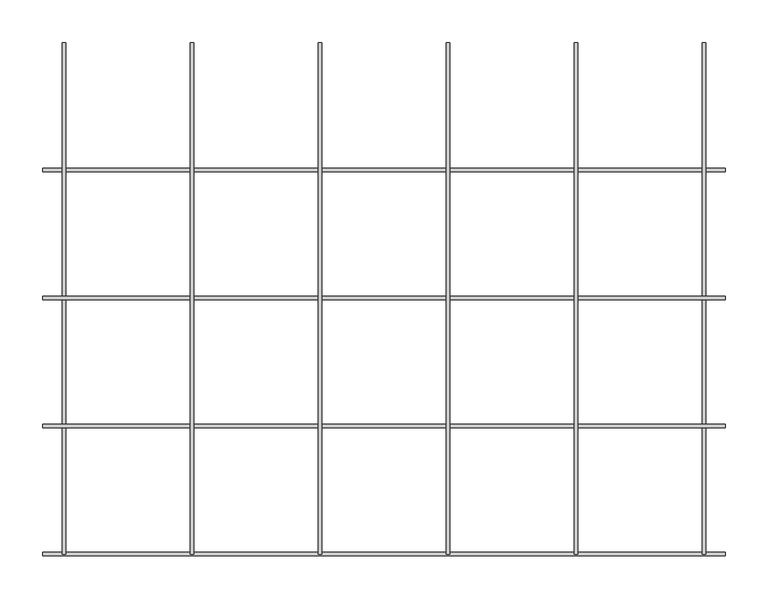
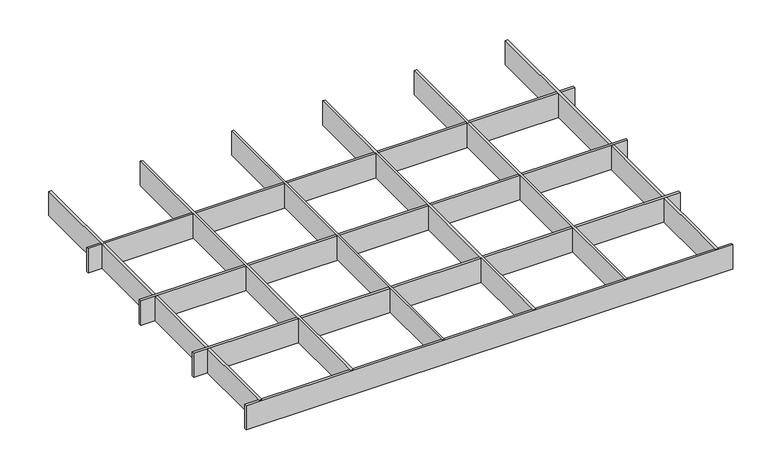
"""IFC4 building model written with IfcOpenShell, lengths in millimetres: proxy geometry, durlum_GEO_panel : durlum_GEO_4_length_cut."""

import ifcopenshell
import ifcopenshell.guid

model = None  # the IFC model being written
_history = None  # IfcOwnerHistory: only IFC2X3 demands one
_inside = {}  # id of a spatial element -> (the spatial element, [elements in it])
_under = {}  # id of a project, library or spatial element -> (it, [spatial elements below it])
_declared = {}  # id of a project -> (the project, [libraries it declares])
_typed = {}  # id of a type object -> (the type object, [elements of that type])
_made_of = {}  # id of a material, layer set ... -> (it, [elements and type objects made of it])


def new_model(schema):
    """Start an empty IFC model of exactly this schema.

    Asked for "IFC4X3", IfcOpenShell would pick the latest addendum, in which some entities
    have other attributes; the version numbers below select the first issue.
    IFC2X3 requires an IfcOwnerHistory on every rooted entity: one is made here for all.
    """
    global model, _history
    if schema == "IFC4X3":
        model = ifcopenshell.file(schema_version=(4, 3, 0, 0))
    else:
        model = ifcopenshell.file(schema=schema)
    _inside.clear()
    _under.clear()
    _declared.clear()
    _typed.clear()
    _made_of.clear()
    _history = None
    if model.schema == "IFC2X3":
        org = make("IfcOrganization", Name="unknown")
        user = make(
            "IfcPersonAndOrganization",
            ThePerson=make("IfcPerson", FamilyName="unknown"),
            TheOrganization=org,
        )
        app = make(
            "IfcApplication",
            ApplicationDeveloper=org,
            Version="unknown",
            ApplicationFullName="unknown",
            ApplicationIdentifier="unknown",
        )
        _history = make(
            "IfcOwnerHistory",
            OwningUser=user,
            OwningApplication=app,
            ChangeAction="ADDED",
            CreationDate=0,
        )
    return model


def make(cls, **values):
    """One entity of the class cls with the attributes given. An attribute that is None is left unset."""
    return model.create_entity(
        cls, **{name: value for name, value in values.items() if value is not None}
    )


def rooted(cls, **values):
    """An entity with a GlobalId (a new one), such as an element, a storey or a relation."""
    return make(cls, GlobalId=ifcopenshell.guid.new(), OwnerHistory=_history, **values)


def si_unit(unit_type, name, prefix=None):
    """IfcSIUnit, for example si_unit("LENGTHUNIT", "METRE", prefix="MILLI")."""
    return make("IfcSIUnit", UnitType=unit_type, Prefix=prefix, Name=name)


def assignment(units):
    """IfcUnitAssignment: the units of a project."""
    return None if units is None else make("IfcUnitAssignment", Units=units)


def point(xyz):
    """IfcCartesianPoint."""
    return None if xyz is None else make("IfcCartesianPoint", Coordinates=xyz)


def direction(xyz):
    """IfcDirection."""
    return None if xyz is None else make("IfcDirection", DirectionRatios=xyz)


def frame(location, z_axis=None, x_axis=None):
    """IfcAxis2Placement3D, a coordinate frame: its origin and axes. An axis left out is left unset."""
    return make(
        "IfcAxis2Placement3D",
        Location=point(location),
        Axis=direction(z_axis),
        RefDirection=direction(x_axis),
    )


def origin():
    """The frame at (0, 0, 0) with its axes left unset."""
    return frame((0.0, 0.0, 0.0))


def origin_with_axes():
    """The frame at (0, 0, 0) with the z axis (0, 0, 1) and the x axis (1, 0, 0) written out."""
    return frame((0.0, 0.0, 0.0), z_axis=(0.0, 0.0, 1.0), x_axis=(1.0, 0.0, 0.0))


def place(relative_to, where):
    """IfcLocalPlacement: puts the frame where relative to a parent placement (None: the world)."""
    return make(
        "IfcLocalPlacement", PlacementRelTo=relative_to, RelativePlacement=where
    )


def context(
    kind, dimensions, precision=None, world=None, true_north=None, identifier=None
):
    """IfcGeometricRepresentationContext, for example the 3D "Model" context."""
    return make(
        "IfcGeometricRepresentationContext",
        ContextIdentifier=identifier,
        ContextType=kind,
        CoordinateSpaceDimension=dimensions,
        Precision=precision,
        WorldCoordinateSystem=world,
        TrueNorth=true_north,
    )


def project(units=None, contexts=None):
    """IfcProject with its units and contexts."""
    return rooted(
        "IfcProject",
        Name="project",
        RepresentationContexts=contexts,
        UnitsInContext=assignment(units),
    )


def spatial(cls, under=None, at=None, **own):
    """A site, building, storey or space (cls), placed at a placement, below another one or the project."""
    s = rooted(cls, ObjectPlacement=at, **own)
    if under is not None:
        _under.setdefault(under.id(), (under, []))[1].append(s)
    return s


def polyline(points):
    """IfcPolyline through the points."""
    return make("IfcPolyline", Points=[point(p) for p in points])


def outline(outer, holes=None, kind="AREA"):
    """IfcArbitraryClosedProfileDef: a profile drawn as a closed curve; with holes, ...WithVoids."""
    if holes is None:
        return make("IfcArbitraryClosedProfileDef", ProfileType=kind, OuterCurve=outer)
    return make(
        "IfcArbitraryProfileDefWithVoids",
        ProfileType=kind,
        OuterCurve=outer,
        InnerCurves=holes,
    )


def extrude(swept, where, along, depth):
    """IfcExtrudedAreaSolid: the profile swept, set in the frame where, extruded along a direction by depth."""
    return make(
        "IfcExtrudedAreaSolid",
        SweptArea=swept,
        Position=where,
        ExtrudedDirection=direction(along),
        Depth=depth,
    )


def shape(context_of_items, identifier, shape_type, items):
    """IfcShapeRepresentation: the items that make up one representation, for example the "Body"."""
    return make(
        "IfcShapeRepresentation",
        ContextOfItems=context_of_items,
        RepresentationIdentifier=identifier,
        RepresentationType=shape_type,
        Items=items,
    )


def source(mapping_origin, context_of_items, identifier, shape_type, items):
    """IfcRepresentationMap: a shape defined once, which mapped items show again and again."""
    return make(
        "IfcRepresentationMap",
        MappingOrigin=mapping_origin,
        MappedRepresentation=shape(context_of_items, identifier, shape_type, items),
    )


def transform(
    local_origin,
    x_axis=None,
    y_axis=None,
    z_axis=None,
    scale=None,
    scale2=None,
    scale3=None,
    uniform=True,
):
    """IfcCartesianTransformationOperator3D, or its non-uniform kind. x_axis, y_axis, z_axis: its Axis1, 2, 3."""
    if uniform:
        return make(
            "IfcCartesianTransformationOperator3D",
            Axis1=direction(x_axis),
            Axis2=direction(y_axis),
            LocalOrigin=point(local_origin),
            Scale=scale,
            Axis3=direction(z_axis),
        )
    return make(
        "IfcCartesianTransformationOperator3DnonUniform",
        Axis1=direction(x_axis),
        Axis2=direction(y_axis),
        LocalOrigin=point(local_origin),
        Scale=scale,
        Axis3=direction(z_axis),
        Scale2=scale2,
        Scale3=scale3,
    )


def mapped(mapping_source, mapping_target):
    """IfcMappedItem: shows the shape of a source again, moved by a transform."""
    return make(
        "IfcMappedItem", MappingSource=mapping_source, MappingTarget=mapping_target
    )


def made_of(thing, what):
    """Note that an element or type object is made of a material, layer set ...; save() writes the relation."""
    if what is not None:
        _made_of.setdefault(what.id(), (what, []))[1].append(thing)
    return thing


def element(
    cls,
    number,
    at=None,
    inside=None,
    cuts=None,
    type_object=None,
    material=None,
    context=None,
    identifier="Body",
    shape_type=None,
    held_by="IfcProductDefinitionShape",
    body=None,
    shapes=None,
    **own,
):
    """One element of the class cls, such as IfcWall. Its Tag is "e" and its number.

    at: its placement. inside: the storey or other place that contains it. cuts: it is an
    opening in that element (IfcRelVoidsElement). A single representation is given by context,
    identifier, shape_type and body (its items); several are given by shapes. held_by: the class
    of the entity that holds the representations. save() writes the other relations.
    """
    e = rooted(cls, Tag="e%d" % number, ObjectPlacement=at, **own)
    if body is not None:
        shapes = [shape(context, identifier, shape_type, body)]
    if shapes is not None:
        e.Representation = make(held_by, Representations=shapes)
    if inside is not None:
        _inside.setdefault(inside.id(), (inside, []))[1].append(e)
    if cuts is not None:
        rooted(
            "IfcRelVoidsElement", RelatingBuildingElement=cuts, RelatedOpeningElement=e
        )
    if type_object is not None:
        _typed.setdefault(type_object.id(), (type_object, []))[1].append(e)
    return made_of(e, material)


def aggregate(whole, parts):
    """IfcRelAggregates: a whole, such as a stair, and the parts it consists of."""
    return rooted("IfcRelAggregates", RelatingObject=whole, RelatedObjects=parts)


def save(model, path):
    """Write the relations noted so far, then the file.

    IfcRelAggregates (storeys below a building ...), IfcRelContainedInSpatialStructure (elements
    in a storey), IfcRelDefinesByType, IfcRelAssociatesMaterial and IfcRelDeclares: one each for
    every whole, place, type object, material and project.
    """
    for whole, parts in _under.values():
        aggregate(whole, parts)
    for where, things in _inside.values():
        rooted(
            "IfcRelContainedInSpatialStructure",
            RelatedElements=things,
            RelatingStructure=where,
        )
    for kind, things in _typed.values():
        rooted("IfcRelDefinesByType", RelatedObjects=things, RelatingType=kind)
    for what, things in _made_of.values():
        rooted("IfcRelAssociatesMaterial", RelatedObjects=things, RelatingMaterial=what)
    for by, libraries in _declared.values():
        rooted("IfcRelDeclares", RelatingContext=by, RelatedDefinitions=libraries)
    model.write(path)


def generic_models_a98fa060(model_context):
    return source(origin(), model_context, "Body", "SweptSolid", [
        extrude(outline(polyline([(223.0, 299.5), (227.0, 299.5), (227.0, -299.5), (223.0, -299.5), (223.0, 299.5)])), origin_with_axes(), (0.0, 0.0, 1.0), 42.0),
        extrude(outline(polyline([(73.0, 299.5), (77.0, 299.5), (77.0, -299.5), (73.0, -299.5), (73.0, 299.5)])), origin_with_axes(), (0.0, 0.0, 1.0), 42.0),
        extrude(outline(polyline([(-77.0, 299.5), (-73.0, 299.5), (-73.0, -299.5), (-77.0, -299.5), (-77.0, 299.5)])), origin_with_axes(), (0.0, 0.0, 1.0), 42.0),
        extrude(outline(polyline([(-227.0, 299.5), (-223.0, 299.5), (-223.0, -299.5), (-227.0, -299.5), (-227.0, 299.5)])), origin_with_axes(), (0.0, 0.0, 1.0), 42.0),
        extrude(outline(polyline([(399.75, -147.5), (399.75, -151.5), (-399.75, -151.5), (-399.75, -147.5), (399.75, -147.5)])), origin_with_axes(), (0.0, 0.0, 1.0), 42.0),
        extrude(outline(polyline([(399.75, 2.5), (399.75, -1.5), (-399.75, -1.5), (-399.75, 2.5), (399.75, 2.5)])), origin_with_axes(), (0.0, 0.0, 1.0), 42.0),
        extrude(outline(polyline([(373.0, 299.5), (377.0, 299.5), (377.0, -299.5), (373.0, -299.5), (373.0, 299.5)])), origin_with_axes(), (0.0, 0.0, 1.0), 42.0),
        extrude(outline(polyline([(-377.0, 299.5), (-373.0, 299.5), (-373.0, -299.5), (-377.0, -299.5), (-377.0, 299.5)])), origin_with_axes(), (0.0, 0.0, 1.0), 42.0),
        extrude(outline(polyline([(399.75, -297.5), (399.75, -301.5), (-399.75, -301.5), (-399.75, -297.5), (399.75, -297.5)])), origin_with_axes(), (0.0, 0.0, 1.0), 42.0),
        extrude(outline(polyline([(399.75, 152.5), (399.75, 148.5), (-399.75, 148.5), (-399.75, 152.5), (399.75, 152.5)])), origin_with_axes(), (0.0, 0.0, 1.0), 42.0),
    ])


if __name__ == "__main__":
    model = new_model("IFC4")
    model_context = context("Model", 3, world=origin())
    ifc_project = project(units=[si_unit("LENGTHUNIT", "METRE", prefix="MILLI")], contexts=[model_context])
    site = spatial("IfcSite", under=ifc_project)
    building = spatial("IfcBuilding", under=site)
    placement = place(None, origin())
    generic_models_shape = generic_models_a98fa060(model_context)
    element("IfcBuildingElementProxy", 1, Name="durlum_GEO_panel : durlum_GEO_4_length_cut", ObjectType="durlum_GEO_panel : durlum_GEO_4_length_cut", at=placement, inside=building, context=model_context, shape_type="MappedRepresentation", body=[
        mapped(generic_models_shape, transform((0.0, 0.0, 0.0), x_axis=(1.0, 0.0, 0.0), y_axis=(0.0, 1.0, 0.0), z_axis=(0.0, 0.0, 1.0))),
    ])
    save(model, "model.ifc")
